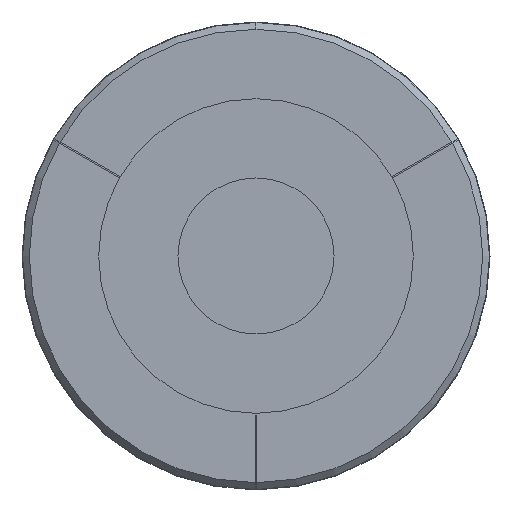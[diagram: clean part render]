
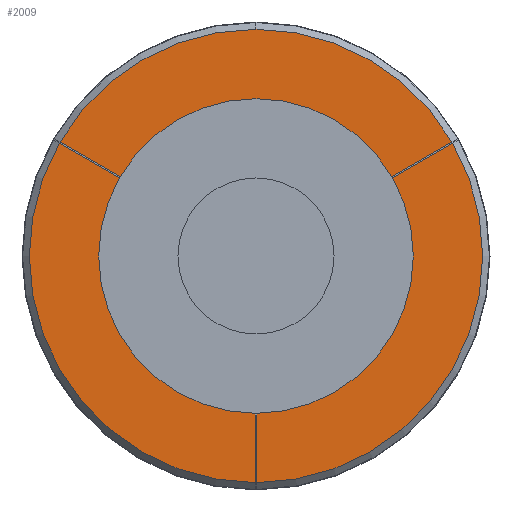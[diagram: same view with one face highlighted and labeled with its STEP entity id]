
A CAD part, front view. The second image highlights one B-rep face of the part: STEP entity #2009.
In plain terms, the highlighted planar face has unit normal (0, -1, 0).
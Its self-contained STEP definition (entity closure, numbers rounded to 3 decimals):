
#5 = VERTEX_POINT ( 'NONE', #1127 ) ;
#34 = VERTEX_POINT ( 'NONE', #1509 ) ;
#35 = DIRECTION ( 'NONE',  ( 0., 1., 0. ) ) ;
#45 = CARTESIAN_POINT ( 'NONE',  ( -517.397, 0., 295.832 ) ) ;
#78 = VERTEX_POINT ( 'NONE', #378 ) ;
#85 = CIRCLE ( 'NONE', #1515, 596. ) ;
#88 = VERTEX_POINT ( 'NONE', #45 ) ;
#132 = VERTEX_POINT ( 'NONE', #1355 ) ;
#142 = DIRECTION ( 'NONE',  ( -0.866, 0., 0.5 ) ) ;
#158 = DIRECTION ( 'NONE',  ( 0., 0., 1. ) ) ;
#160 = LINE ( 'NONE', #809, #1169 ) ;
#166 = FACE_OUTER_BOUND ( 'NONE', #946, .T. ) ;
#196 = DIRECTION ( 'NONE',  ( 0., 0., 1. ) ) ;
#202 = VECTOR ( 'NONE', #142, 1000. ) ;
#251 = ORIENTED_EDGE ( 'NONE', *, *, #806, .T. ) ;
#268 = LINE ( 'NONE', #763, #447 ) ;
#342 = CARTESIAN_POINT ( 'NONE',  ( 0., 0., 0. ) ) ;
#378 = CARTESIAN_POINT ( 'NONE',  ( -2.5, 0., -595.995 ) ) ;
#437 = ORIENTED_EDGE ( 'NONE', *, *, #2030, .T. ) ;
#439 = CIRCLE ( 'NONE', #699, 596. ) ;
#447 = VECTOR ( 'NONE', #1960, 1000. ) ;
#463 = VERTEX_POINT ( 'NONE', #694 ) ;
#488 = LINE ( 'NONE', #1155, #1910 ) ;
#493 = DIRECTION ( 'NONE',  ( 0., -1., 0. ) ) ;
#502 = DIRECTION ( 'NONE',  ( 0., 0., 1. ) ) ;
#509 = AXIS2_PLACEMENT_3D ( 'NONE', #2096, #928, #1563 ) ;
#542 = EDGE_CURVE ( 'NONE', #2068, #5, #1778, .T. ) ;
#591 = ORIENTED_EDGE ( 'NONE', *, *, #1036, .F. ) ;
#595 = ORIENTED_EDGE ( 'NONE', *, *, #887, .T. ) ;
#645 = LINE ( 'NONE', #1320, #202 ) ;
#664 = CARTESIAN_POINT ( 'NONE',  ( -2.5, 0., -871.896 ) ) ;
#671 = LINE ( 'NONE', #1328, #918 ) ;
#672 = AXIS2_PLACEMENT_3D ( 'NONE', #1470, #1995, #1986 ) ;
#694 = CARTESIAN_POINT ( 'NONE',  ( -753.834, 0., 438.113 ) ) ;
#699 = AXIS2_PLACEMENT_3D ( 'NONE', #342, #995, #158 ) ;
#763 = CARTESIAN_POINT ( 'NONE',  ( 2.5, 0., -595.995 ) ) ;
#778 = DIRECTION ( 'NONE',  ( -0.866, 0., -0.5 ) ) ;
#790 = DIRECTION ( 'NONE',  ( 0.866, 0., 0.5 ) ) ;
#806 = EDGE_CURVE ( 'NONE', #1619, #811, #160, .T. ) ;
#809 = CARTESIAN_POINT ( 'NONE',  ( 1.25, 0., -2.165 ) ) ;
#811 = VERTEX_POINT ( 'NONE', #1144 ) ;
#816 = PLANE ( 'NONE',  #1875 ) ;
#840 = AXIS2_PLACEMENT_3D ( 'NONE', #1150, #493, #502 ) ;
#841 = ORIENTED_EDGE ( 'NONE', *, *, #1588, .T. ) ;
#858 = EDGE_CURVE ( 'NONE', #88, #132, #645, .T. ) ;
#872 = EDGE_CURVE ( 'NONE', #34, #5, #1287, .T. ) ;
#878 = EDGE_CURVE ( 'NONE', #1619, #1089, #1456, .T. ) ;
#887 = EDGE_CURVE ( 'NONE', #463, #1433, #488, .T. ) ;
#908 = ORIENTED_EDGE ( 'NONE', *, *, #872, .T. ) ;
#918 = VECTOR ( 'NONE', #2002, 1000. ) ;
#928 = DIRECTION ( 'NONE',  ( 0., 1., 0. ) ) ;
#945 = CARTESIAN_POINT ( 'NONE',  ( 514.897, 0., 300.162 ) ) ;
#946 = EDGE_LOOP ( 'NONE', ( #841, #1120, #1617, #251, #1076, #908, #1276, #591, #595, #437, #1186, #2083, #1400 ) ) ;
#968 = VERTEX_POINT ( 'NONE', #664 ) ;
#980 = DIRECTION ( 'NONE',  ( 0., 1., 0. ) ) ;
#991 = AXIS2_PLACEMENT_3D ( 'NONE', #1528, #35, #2019 ) ;
#995 = DIRECTION ( 'NONE',  ( 0., -1., 0. ) ) ;
#998 = CARTESIAN_POINT ( 'NONE',  ( 0., 0., 0. ) ) ;
#1036 = EDGE_CURVE ( 'NONE', #463, #2068, #1699, .T. ) ;
#1059 = VECTOR ( 'NONE', #790, 1000. ) ;
#1071 = CARTESIAN_POINT ( 'NONE',  ( -514.897, 0., 300.162 ) ) ;
#1072 = DIRECTION ( 'NONE',  ( 0., 0., 1. ) ) ;
#1076 = ORIENTED_EDGE ( 'NONE', *, *, #2095, .T. ) ;
#1089 = VERTEX_POINT ( 'NONE', #1219 ) ;
#1109 = CIRCLE ( 'NONE', #509, 871.899 ) ;
#1120 = ORIENTED_EDGE ( 'NONE', *, *, #1437, .T. ) ;
#1122 = CARTESIAN_POINT ( 'NONE',  ( 0., 0., 0. ) ) ;
#1127 = CARTESIAN_POINT ( 'NONE',  ( 753.834, 0., 438.113 ) ) ;
#1137 = DIRECTION ( 'NONE',  ( 0., 0., 1. ) ) ;
#1144 = CARTESIAN_POINT ( 'NONE',  ( 517.397, 0., 295.832 ) ) ;
#1150 = CARTESIAN_POINT ( 'NONE',  ( 0., 0., 0. ) ) ;
#1155 = CARTESIAN_POINT ( 'NONE',  ( 1.25, 0., 2.165 ) ) ;
#1169 = VECTOR ( 'NONE', #778, 1000. ) ;
#1186 = ORIENTED_EDGE ( 'NONE', *, *, #858, .T. ) ;
#1219 = CARTESIAN_POINT ( 'NONE',  ( 2.5, 0., -871.896 ) ) ;
#1227 = DIRECTION ( 'NONE',  ( 0., 1., 0. ) ) ;
#1276 = ORIENTED_EDGE ( 'NONE', *, *, #542, .F. ) ;
#1287 = LINE ( 'NONE', #945, #1059 ) ;
#1320 = CARTESIAN_POINT ( 'NONE',  ( -517.397, 0., 295.832 ) ) ;
#1326 = CARTESIAN_POINT ( 'NONE',  ( 2.5, 0., -595.995 ) ) ;
#1327 = EDGE_CURVE ( 'NONE', #968, #132, #1109, .T. ) ;
#1328 = CARTESIAN_POINT ( 'NONE',  ( -2.5, 0., 0. ) ) ;
#1346 = AXIS2_PLACEMENT_3D ( 'NONE', #998, #1227, #1072 ) ;
#1355 = CARTESIAN_POINT ( 'NONE',  ( -756.334, 0., 433.783 ) ) ;
#1400 = ORIENTED_EDGE ( 'NONE', *, *, #1714, .T. ) ;
#1433 = VERTEX_POINT ( 'NONE', #1071 ) ;
#1437 = EDGE_CURVE ( 'NONE', #2033, #1089, #268, .T. ) ;
#1456 = CIRCLE ( 'NONE', #672, 871.899 ) ;
#1470 = CARTESIAN_POINT ( 'NONE',  ( 0., 0., 0. ) ) ;
#1486 = CARTESIAN_POINT ( 'NONE',  ( 756.334, 0., 433.783 ) ) ;
#1509 = CARTESIAN_POINT ( 'NONE',  ( 514.897, 0., 300.162 ) ) ;
#1515 = AXIS2_PLACEMENT_3D ( 'NONE', #1122, #2136, #1137 ) ;
#1528 = CARTESIAN_POINT ( 'NONE',  ( 0., 0., 0. ) ) ;
#1563 = DIRECTION ( 'NONE',  ( 0., 0., 1. ) ) ;
#1588 = EDGE_CURVE ( 'NONE', #78, #2033, #439, .T. ) ;
#1617 = ORIENTED_EDGE ( 'NONE', *, *, #878, .F. ) ;
#1619 = VERTEX_POINT ( 'NONE', #1486 ) ;
#1658 = DIRECTION ( 'NONE',  ( 0.866, 0., -0.5 ) ) ;
#1699 = CIRCLE ( 'NONE', #1346, 871.899 ) ;
#1714 = EDGE_CURVE ( 'NONE', #968, #78, #671, .T. ) ;
#1778 = CIRCLE ( 'NONE', #991, 871.899 ) ;
#1860 = CARTESIAN_POINT ( 'NONE',  ( 0., 0., 871.899 ) ) ;
#1875 = AXIS2_PLACEMENT_3D ( 'NONE', #1991, #980, #196 ) ;
#1910 = VECTOR ( 'NONE', #1658, 1000. ) ;
#1960 = DIRECTION ( 'NONE',  ( 0., 0., -1. ) ) ;
#1986 = DIRECTION ( 'NONE',  ( 0., 0., 1. ) ) ;
#1991 = CARTESIAN_POINT ( 'NONE',  ( 0., 0., 0. ) ) ;
#1995 = DIRECTION ( 'NONE',  ( 0., 1., 0. ) ) ;
#2002 = DIRECTION ( 'NONE',  ( 0., 0., 1. ) ) ;
#2009 = ADVANCED_FACE ( 'NONE', ( #166 ), #816, .F. ) ;
#2019 = DIRECTION ( 'NONE',  ( 0., 0., 1. ) ) ;
#2030 = EDGE_CURVE ( 'NONE', #1433, #88, #2147, .T. ) ;
#2033 = VERTEX_POINT ( 'NONE', #1326 ) ;
#2068 = VERTEX_POINT ( 'NONE', #1860 ) ;
#2083 = ORIENTED_EDGE ( 'NONE', *, *, #1327, .F. ) ;
#2095 = EDGE_CURVE ( 'NONE', #811, #34, #85, .T. ) ;
#2096 = CARTESIAN_POINT ( 'NONE',  ( 0., 0., 0. ) ) ;
#2136 = DIRECTION ( 'NONE',  ( 0., -1., 0. ) ) ;
#2147 = CIRCLE ( 'NONE', #840, 596. ) ;
